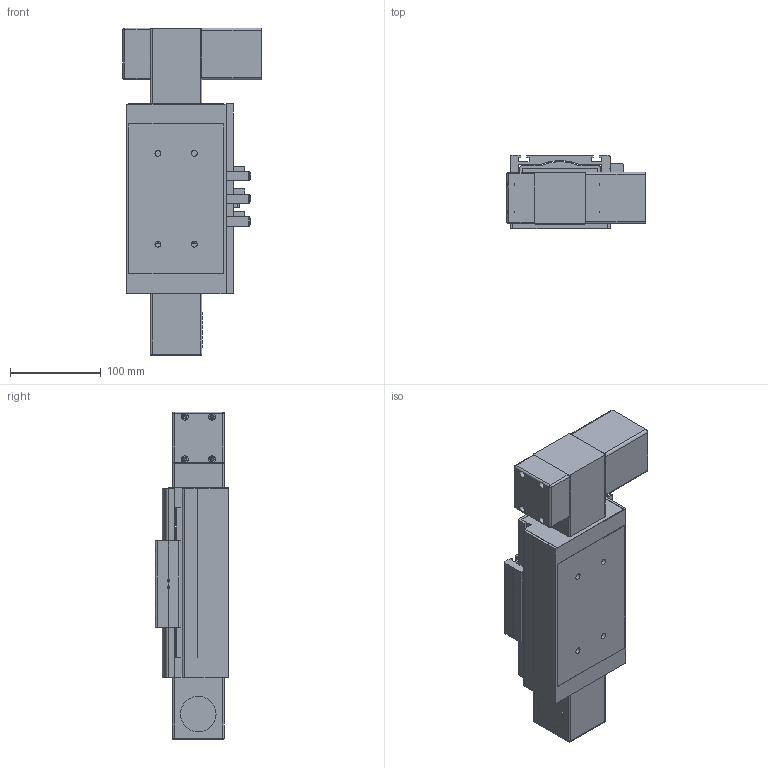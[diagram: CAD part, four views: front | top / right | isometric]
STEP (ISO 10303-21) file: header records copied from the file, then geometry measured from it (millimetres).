
FILE_DESCRIPTION((''),'2;1');
FILE_NAME('E:\uia actuator\UIA actuator 3d- 2015\Belt drive actuator\UIA110BR12(15)DC\UIA110BR12(15)DC-STEP FILE\UIA110BR12(15) stp file 13May16\UIA110BR12(15)DC-050-M23-P13-C10-S.stp','2016-05-13T14:34:34',('h029'),(''),'Autodesk Inventor 11','Autodesk Inventor 11','');
FILE_SCHEMA(('AUTOMOTIVE_DESIGN { 1 0 10303 214 1 1 1 1 }'));
Length unit declared in the file: millimetre
Products named in the file (11): UIA110BR12(15)DC-50; UIA110BR12(15)DC-50-body; UIA110BR12(15)DC-50-Sensor rail; UIA110B-Carriage; UIA110B- Sensor Flag; UIA110B-Cover; Motor mount; SOH-32C; SOH-32C-3; SOH-32C-1; SOH-32C-2
Assembly tree (10 placements, depth 3):
  UIA110BR12(15)DC-50
    UIA110BR12(15)DC-50-body
    UIA110BR12(15)DC-50-Sensor rail
    UIA110B-Carriage
    UIA110B- Sensor Flag
    UIA110B-Cover
    Motor mount
    SOH-32C
      SOH-32C-3
      SOH-32C-1
      SOH-32C-2
Bounding box: 152 x 81 x 361 mm (x, y, z)
Volume: 1607308.1 mm3; surface area: 353418.4 mm2
Topology: 9 solids, 13 shells, 692 faces, 1930 edges, 1248 vertices
Faces by surface type: plane 439, cylinder 163, cone 42, bspline 40, sphere 8
Full cylindrical faces by diameter (mm): 2.459 x4, 3 x2, 3.242 x8, 3.5 x4, 4 x10, 4.5 x4, 4.917 x8, 5 x2, 6.35 x1, 6.5 x4, 7.5 x4, 10 x3, 11 x4, 12 x1, 20 x2, 32 x3, 37 x1, 38.1 x1, 39 x2, 43.5 x1, 46 x2
Entity records: 22378 total; most frequent: CARTESIAN_POINT 5133, DIRECTION 3519, ORIENTED_EDGE 3390, EDGE_CURVE 1695, AXIS2_PLACEMENT_3D 1180, VERTEX_POINT 1168, VECTOR 1159, LINE 1159
